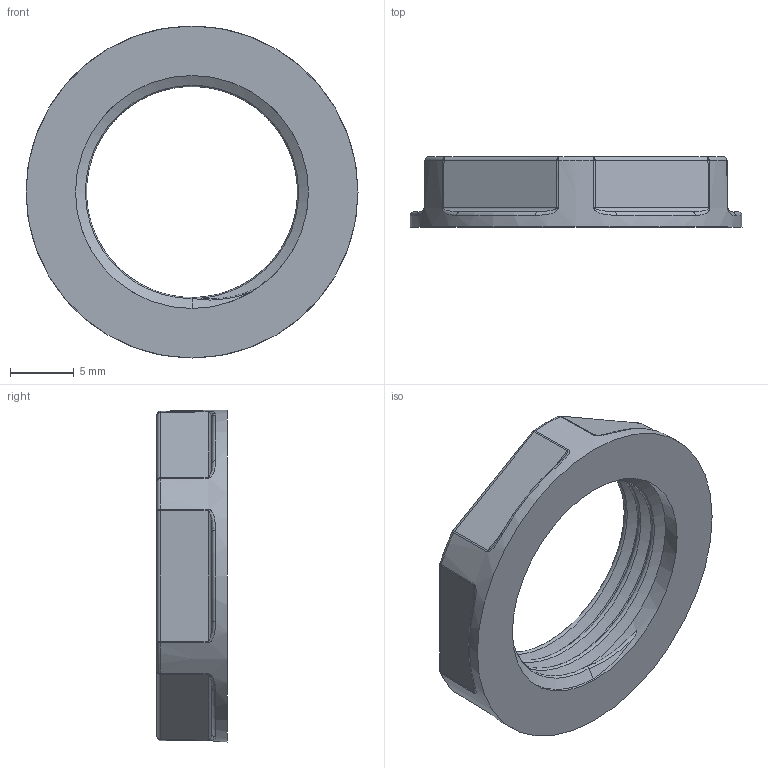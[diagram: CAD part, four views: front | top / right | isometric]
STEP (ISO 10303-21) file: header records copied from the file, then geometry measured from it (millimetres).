
FILE_DESCRIPTION (( 'STEP AP203' ), '1' );
FILE_NAME ('Ãàéêà ïðèæèìíàÿ (PG11-Ì18).STEP', '2020-08-06T09:27:56', ( '' ), ( '' ), 'SwSTEP 2.0', 'SolidWorks 2019', '' );
FILE_SCHEMA (( 'CONFIG_CONTROL_DESIGN' ));
Length unit declared in the file: millimetre
Products named in the file (1): Ãàéêà ïðèæèìíàÿ (PG11-Ì18)
Bounding box: 26 x 5.5 x 26 mm (x, y, z)
Volume: 1377.1 mm3; surface area: 1441.5 mm2
Topology: 1 solids, 1 shells, 85 faces, 198 edges, 103 vertices
Faces by surface type: bspline 30, cylinder 16, plane 14, torus 12, sphere 12, cone 1
Full cylindrical faces by diameter (mm): 18.25 x3
Entity records: 4212 total; most frequent: CARTESIAN_POINT 2560, ORIENTED_EDGE 348, DIRECTION 308, EDGE_CURVE 174, AXIS2_PLACEMENT_3D 141, VERTEX_POINT 96, CIRCLE 88, EDGE_LOOP 86
